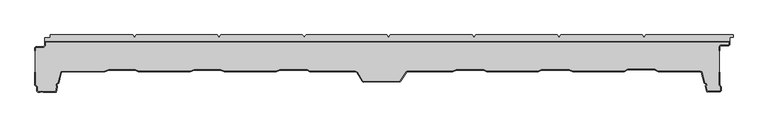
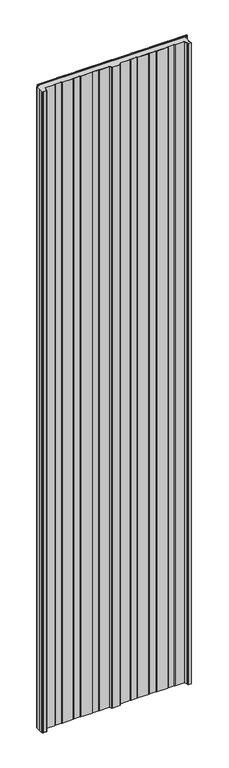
"""IFC4 building model written with IfcOpenShell, lengths in millimetres: plate geometry, Paneles-Sándwich-Madera_PAPUR-AC_Curtain-Panel : PAPUR AC 50/10."""

from ifc_helpers import new_model, si_unit, origin, origin_with_axes, place, context, project, spatial, polyline, outline, extrude, source, transform, mapped, element, save


def plate_64fb639c(model_context):
    return source(origin(), model_context, "Body", "SweptSolid", [
        extrude(outline(polyline([(-404.8923076, 8.0070037), (-402.9037044, 10.0073737), (-272.8159298, 10.0073737), (-270.8198896, 8.0070037), (-270.8198896, 6.0196231), (-268.8151898, 6.0196231), (-268.8151898, 8.0070037), (-266.8234794, 10.0073737), (-136.0114048, 10.0073737), (-134.028354, 8.0070037), (-134.028354, 6.0196231), (-132.0236542, 6.0196231), (-132.0236542, 8.0070037), (-130.027614, 10.0073737), (-0.6790135, 10.0073737), (1.3083671, 8.0070037), (1.3083671, 6.0196231), (3.3044073, 6.0196231), (3.3044073, 8.0070037), (5.3047773, 10.0073737), (136.7230247, 10.0073737), (138.7147351, 8.0070037), (138.7147351, 6.0196231), (140.7107753, 6.0196231), (140.7107753, 8.0070037), (142.7111453, 10.0073737), (272.9386962, 10.0073737), (274.9390662, 8.0070037), (274.9390662, 6.0196231), (276.9351064, 6.0196231), (276.9351064, 8.0070037), (278.9311466, 10.0073737), (409.5094118, 10.0073737), (411.5097818, 8.0070037), (411.5097818, 6.0196231), (413.4971624, 6.0196231), (413.4971624, 8.0070037), (415.4932026, 10.0073737), (555.7269333, 10.0073737), (555.7269333, 6.4959017), (550.4015009, 6.4959017), (550.4015009, 0.0), (-549.601171, 0.0), (-549.601171, 5.5984381), (-541.266524, 5.5984381), (-541.266524, 10.0073737), (-408.8887178, 10.0073737), (-406.8926776, 8.0070037), (-406.8926776, 6.0196231), (-404.8923076, 6.0196231), (-404.8923076, 8.0070037)])), origin_with_axes(), (0.0, 0.0, 1.0), 5000.0),
        extrude(outline(polyline([(-565.6618356, -10.4348305), (-564.1420739, -9.1055803), (-552.1008857, -8.9930054), (-549.9316533, -7.001295), (-549.9922705, -1.1690474), (-548.9531173, 0.0), (548.9555868, 0.0), (549.99474, -0.6538006), (549.99474, -6.0184292), (548.4489996, -7.5641697), (535.77133, -7.5641697), (533.9181733, -9.3995927), (533.9181733, -15.1889566), (533.1181733, -15.1889566), (533.1181733, -9.0659666), (535.4422099, -6.7641697), (548.1176287, -6.7641697), (549.19474, -5.6870584), (549.19474, -0.8), (-548.5938644, -0.8), (-549.1891031, -1.4696435), (-549.1279914, -7.3494661), (-551.7861577, -9.7900979), (-563.8383716, -9.9027759), (-564.8585217, -10.795044), (-564.8185043, -15.1889566), (-565.6185375, -15.1889566), (-565.6618356, -10.4348305)])), origin_with_axes(), (0.0, 0.0, 1.0), 5000.0),
        extrude(outline(polyline([(160.2961713, -49.080732), (155.0700964, -46.8595419), (110.914743, -46.8595419), (105.4418692, -49.080732), (32.9522706, -49.080732), (31.4498282, -50.0159699), (22.1450768, -64.1874223), (21.0669553, -65.2871929), (-38.4029191, -65.7721311), (-40.2907141, -64.4602001), (-48.8593986, -50.2974073), (-51.5698567, -49.080732), (-124.2066687, -49.080732), (-128.6057508, -46.8595419), (-172.432039, -46.8595419), (-178.2426376, -49.080732), (-261.7689096, -49.080732), (-267.3283795, -46.8595419), (-309.6738743, -46.8595419), (-315.8568362, -49.080732), (-399.3138314, -49.080732), (-404.2931073, -46.8595419), (-447.2231259, -46.8595419), (-453.6788654, -49.5570106), (-522.9773976, -49.6955644), (-527.4977143, -67.4131272), (-528.6234636, -68.5994938), (-530.0999272, -69.3355607), (-530.4116732, -70.262139), (-529.4850948, -72.4227118), (-529.4850948, -73.6653659), (-531.6372836, -82.0045707), (-552.0433799, -82.0045707), (-554.8231149, -81.0779924), (-557.2997634, -82.0045707), (-560.7029903, -82.0045707), (-562.8635631, -80.4025428), (-562.9285102, -73.2756835), (-565.6476279, -70.6041937), (-565.6, -49.57), (-564.7999979, -49.57), (-564.8468678, -70.2694216), (-562.1315619, -72.9371664), (-562.0672248, -79.9970874), (-560.438754, -81.2045707), (-557.4445144, -81.2045707), (-554.8384953, -80.2295916), (-551.9135578, -81.2045707), (-532.2570317, -81.2045707), (-530.2850948, -73.5637976), (-530.2850948, -72.5870188), (-531.2673442, -70.2966335), (-530.7527365, -68.767105), (-529.1066634, -67.946482), (-528.2213945, -67.0135448), (-523.5992353, -48.896806), (-453.8400488, -48.7573313), (-447.3835418, -46.0595419), (-404.1227627, -46.0595419), (-399.1434867, -48.280732), (-315.9961744, -48.280732), (-309.8132126, -46.0595419), (-267.1744807, -46.0595419), (-261.6150108, -48.280732), (-178.390332, -48.280732), (-172.5797335, -46.0595419), (-128.4152363, -46.0595419), (-124.0161542, -48.280732), (-51.3985382, -48.280732), (-48.3041085, -49.6697651), (-39.6943674, -63.9004185), (-38.1551784, -64.9700843), (20.728235, -64.4899283), (21.5191698, -63.6831114), (30.8776723, -49.4297941), (32.7236193, -48.280732), (105.2857129, -48.280732), (110.7585866, -46.0595419), (155.2330509, -46.0595419), (160.4591258, -48.280732), (242.801635, -48.280732), (247.2274638, -46.0595419), (292.6117194, -46.0595419), (298.2231469, -48.280732), (380.6626325, -48.280732), (386.4515821, -45.3754327), (429.5764659, -45.3754327), (435.4444395, -48.2812706), (503.1429943, -48.4760679), (505.4861808, -49.5321519), (510.3641127, -67.2870941), (512.9960103, -68.5999754), (513.122536, -70.5751818), (511.934239, -72.1278347), (514.154453, -80.732622), (534.8688225, -80.732622), (536.1415957, -79.4787983), (536.1415957, -73.5331272), (533.1367108, -70.7549039), (533.1367108, -49.57), (533.9367108, -49.57), (533.9367108, -70.4050226), (536.9415957, -73.1832459), (536.9415957, -79.8136893), (535.1966842, -81.532622), (513.5346688, -81.532622), (511.06235, -71.9507631), (512.3050041, -70.3270861), (512.2270676, -69.1104109), (509.6873364, -67.8435053), (504.8144411, -50.1068958), (502.9699441, -49.2755732), (435.2561206, -49.080732), (429.3892345, -46.1754327), (386.6410678, -46.1754327), (380.8521183, -49.080732), (298.0705727, -49.080732), (292.4591451, -46.8595419), (247.4169495, -46.8595419), (242.9911208, -49.080732), (160.2961713, -49.080732)])), origin_with_axes(), (0.0, 0.0, 1.0), 5000.0),
        extrude(outline(polyline([(536.139617, -73.5285564), (536.139617, -79.4742276), (534.8668439, -80.7280512), (514.1524744, -80.7280512), (511.9322604, -72.1232639), (513.1205574, -70.5706111), (512.9940317, -68.5954047), (510.3621341, -67.2825234), (505.4842022, -49.5275812), (503.1410157, -48.4714971), (435.4424609, -48.2766998), (429.5744873, -45.370862), (386.4496035, -45.370862), (380.6606539, -48.2761613), (298.2211683, -48.2761613), (292.6097408, -46.0549712), (247.2254852, -46.0549712), (242.7996564, -48.2761613), (160.4571472, -48.2761613), (155.2310723, -46.0549712), (110.756608, -46.0549712), (105.2837343, -48.2761613), (32.7216407, -48.2761613), (30.8756937, -49.4252234), (21.5171912, -63.6785406), (20.7262564, -64.4853576), (-38.157157, -64.9655136), (-39.696346, -63.8958478), (-48.3060871, -49.6651944), (-51.4005168, -48.2761613), (-124.0181328, -48.2761613), (-128.4172149, -46.0549712), (-172.5817121, -46.0549712), (-178.3923106, -48.2761613), (-261.6169894, -48.2761613), (-267.1764593, -46.0549712), (-309.8151912, -46.0549712), (-315.998153, -48.2761613), (-399.1454653, -48.2761613), (-404.1247413, -46.0549712), (-447.3855204, -46.0549712), (-453.8420274, -48.7527605), (-523.6012139, -48.8922353), (-528.2233731, -67.0089741), (-529.108642, -67.9419113), (-530.7547151, -68.7625342), (-531.2693228, -70.2920628), (-530.2870734, -72.5824481), (-530.2870734, -73.5592269), (-532.2590104, -81.2), (-551.9155364, -81.2), (-554.8404739, -80.2250208), (-557.446493, -81.2), (-560.4407326, -81.2), (-562.0692034, -79.9925166), (-562.1335405, -72.9325956), (-564.8488464, -70.2648508), (-564.8019766, -50.0), (-564.8432618, -10.795044), (-563.8231116, -9.9027759), (-551.7708977, -9.7900979), (-549.1127314, -7.3494661), (-549.1738431, -1.4696435), (-548.5786045, -0.8), (549.21, -0.8), (549.21, -5.6870584), (548.1328887, -6.7641697), (535.4574698, -6.7641697), (533.1334333, -9.0659666), (533.1334333, -70.7491322), (536.139617, -73.5285564)])), origin_with_axes(), (0.0, 0.0, 1.0), 5000.0),
    ])


if __name__ == "__main__":
    model = new_model("IFC4")
    model_context = context("Model", 3, world=origin())
    ifc_project = project(units=[si_unit("LENGTHUNIT", "METRE", prefix="MILLI")], contexts=[model_context])
    site = spatial("IfcSite", under=ifc_project)
    building = spatial("IfcBuilding", under=site)
    placement = place(None, origin())
    plate_shape = plate_64fb639c(model_context)
    element("IfcPlate", 1, ObjectType="Paneles-Sándwich-Madera_PAPUR-AC_Curtain-Panel : PAPUR AC 50/10", at=placement, inside=building, context=model_context, shape_type="MappedRepresentation", body=[
        mapped(plate_shape, transform((0.0, 0.0, 0.0), x_axis=(1.0, 0.0, 0.0), y_axis=(0.0, 1.0, 0.0), z_axis=(0.0, 0.0, 1.0))),
    ])
    save(model, "model.ifc")
